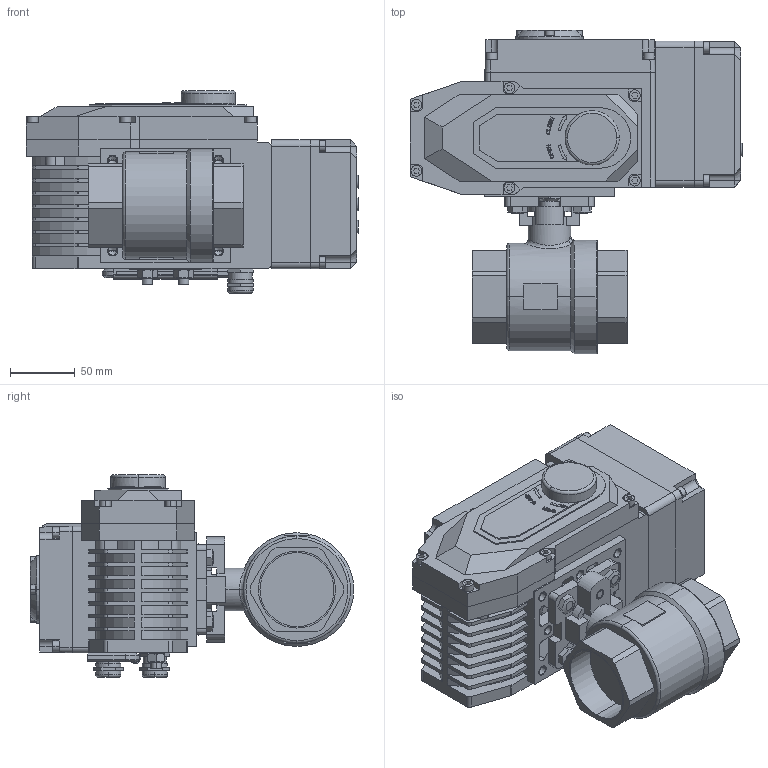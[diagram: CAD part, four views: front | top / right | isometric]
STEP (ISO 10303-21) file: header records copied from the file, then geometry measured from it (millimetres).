
FILE_DESCRIPTION((''),'2;1');
FILE_NAME('BV-21F_EAR_A_ASM','2025-03-02T',('AMD'),(''),'PRO/ENGINEER BY PARAMETRIC TECHNOLOGY CORPORATION, 2008020','PRO/ENGINEER BY PARAMETRIC TECHNOLOGY CORPORATION, 2008020','');
FILE_SCHEMA(('CONFIG_CONTROL_DESIGN'));
Length unit declared in the file: millimetre
Products named in the file (19): KORPUS_KRANA; SHAIBA_KRANA; VINT_KRANA; SB_KRAN_ASM; DET_1; V-11738-M5; V-11738-M4; DET_2; KREPLENIE; KLUCH; DET_3; G-5915-M8; ELECTROPRIVOD_ASM; DET_4; DET_5; DISPLAY_ASM; ELECTROPRIVOD_WITH_DISPLAY_ASM; B-7798-M8-20; BV-21F_EAR_A_ASM
Assembly tree (39 placements, depth 4):
  BV-21F_EAR_A_ASM
    SB_KRAN_ASM
      KORPUS_KRANA
      SHAIBA_KRANA
      VINT_KRANA  x2
    ELECTROPRIVOD_WITH_DISPLAY_ASM
      ELECTROPRIVOD_ASM
        DET_1
        V-11738-M5  x10
        V-11738-M4  x4
        DET_2
        KREPLENIE
        KLUCH
        DET_3
        G-5915-M8  x2
      DISPLAY_ASM
        DET_4
        DET_5
        V-11738-M5  x4
    B-7798-M8-20  x4
Bounding box: 257 x 250.5 x 157 mm (x, y, z)
Volume: 3444245.7 mm3; surface area: 390281.6 mm2
Topology: 35 solids, 81 shells, 2534 faces, 6765 edges, 4466 vertices
Faces by surface type: plane 1699, cylinder 424, extrusion 300, cone 87, torus 18, bspline 6
Entity records: 70176 total; most frequent: CARTESIAN_POINT 15141, ORIENTED_EDGE 11730, DIRECTION 10239, EDGE_CURVE 5917, VECTOR 4793, LINE 4493, VERTEX_POINT 3920, AXIS2_PLACEMENT_3D 2723
